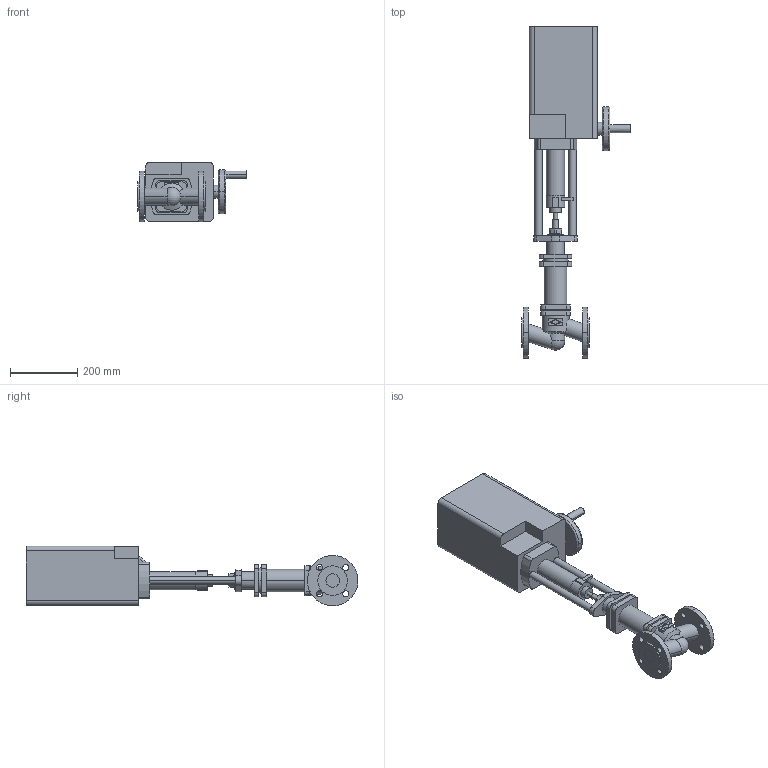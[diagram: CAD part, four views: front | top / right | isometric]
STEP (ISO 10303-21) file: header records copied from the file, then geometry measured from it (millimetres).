
FILE_DESCRIPTION( ( '' ), '1' );
FILE_NAME( 'F:/DE-SHS/TB/OR/04-Sonstiges/daten/files_3d/441-PN16-PREMIO/c000002069.stp', '2013-06-20T10:42:17', ( '' ), ( '' ), ' ', ' ', ' ' );
FILE_SCHEMA( ( 'CONFIG_CONTROL_DESIGN' ) );
Length unit declared in the file: millimetre
Products named in the file (2): 1; 2
Bounding box: 321.5 x 984.5 x 177.5 mm (x, y, z)
Volume: 15138085.5 mm3; surface area: 667254.3 mm2
Topology: 2 solids, 2 shells, 214 faces, 534 edges, 355 vertices
Faces by surface type: cylinder 104, plane 103, torus 4, cone 2, sphere 1
Entity records: 7036 total; most frequent: CARTESIAN_POINT 1587, DIRECTION 1186, ORIENTED_EDGE 1064, EDGE_CURVE 532, AXIS2_PLACEMENT_3D 452, VERTEX_POINT 355, LINE 282, VECTOR 282
